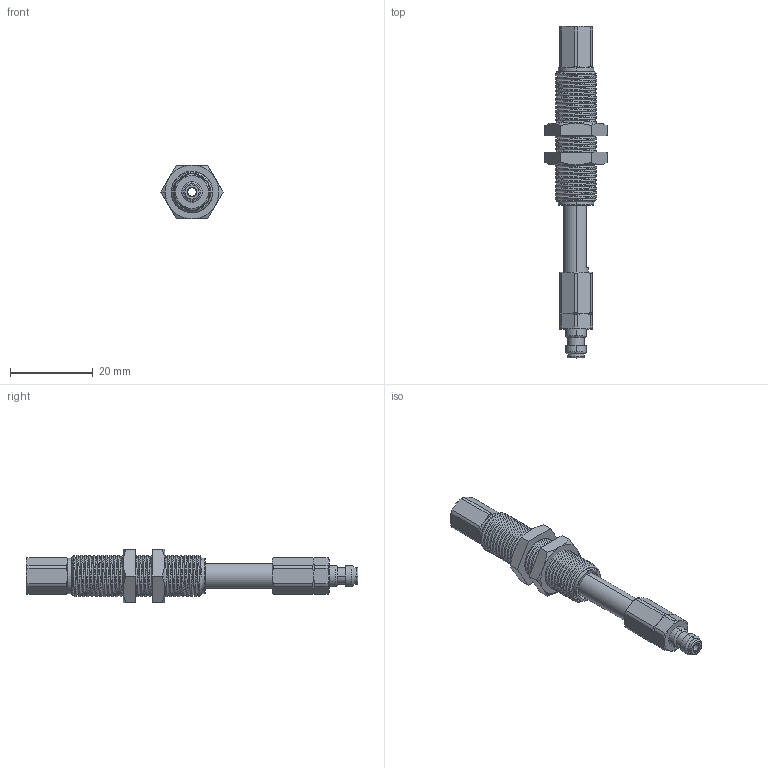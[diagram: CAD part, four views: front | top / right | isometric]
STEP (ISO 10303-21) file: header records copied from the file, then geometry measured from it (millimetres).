
FILE_DESCRIPTION (( 'STEP AP203' ), '1' );
FILE_NAME ('BLN04-4BT15NK67-M5-耳5耳4_asm〞〞TOC.STEP', '2024-10-17T03:15:19', ( '' ), ( '' ), 'SwSTEP 2.0', 'SolidWorks 2022', '' );
FILE_SCHEMA (( 'CONFIG_CONTROL_DESIGN' ));
Length unit declared in the file: millimetre
Products named in the file (1): BLN04-4BT15NK67-M5-φ5φ4_asm——TOC
Bounding box: 15.01 x 80.2 x 13 mm (x, y, z)
Surface area: 3837.2 mm2 (no closed solid volume)
Topology: 0 solids, 10 shells, 253 faces, 703 edges, 459 vertices
Faces by surface type: cylinder 97, cone 81, plane 47, bspline 22, torus 6
Entity records: 16870 total; most frequent: CARTESIAN_POINT 10957, ORIENTED_EDGE 1275, DIRECTION 1037, EDGE_CURVE 703, VERTEX_POINT 459, AXIS2_PLACEMENT_3D 429, B_SPLINE_CURVE_WITH_KNOTS 327, EDGE_LOOP 266
